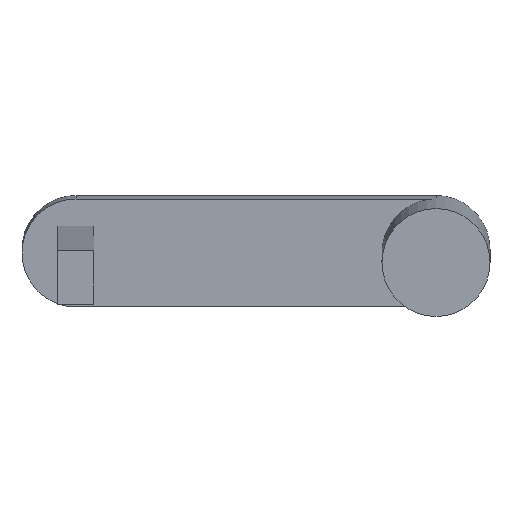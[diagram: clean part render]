
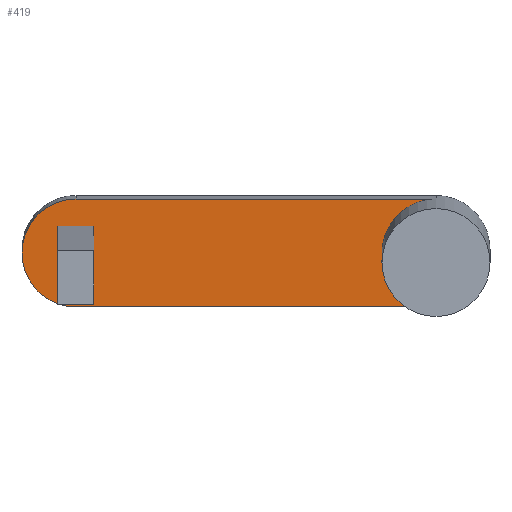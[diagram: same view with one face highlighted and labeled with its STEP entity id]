
A CAD part, top view. The second image highlights one B-rep face of the part: STEP entity #419.
In plain terms, the highlighted planar face has unit normal (0, -0.035, 0.999) as drawn and (0, 0, 1) by its records, which use the part's own axes.
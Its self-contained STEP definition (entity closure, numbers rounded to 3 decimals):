
#261 = VERTEX_POINT('',#262);
#262 = CARTESIAN_POINT('',(0.,15.003,30.));
#268 = EDGE_CURVE('',#261,#269,#271,.T.);
#269 = VERTEX_POINT('',#270);
#270 = CARTESIAN_POINT('',(-0.001,-14.997,30.));
#271 = CIRCLE('',#272,15.);
#272 = AXIS2_PLACEMENT_3D('',#273,#274,#275);
#273 = CARTESIAN_POINT('',(-0.001,0.003,30.));
#274 = DIRECTION('',(0.,0.,1.));
#275 = DIRECTION('',(1.,0.,0.));
#301 = EDGE_CURVE('',#261,#302,#304,.T.);
#302 = VERTEX_POINT('',#303);
#303 = CARTESIAN_POINT('',(100.,15.,30.));
#304 = LINE('',#305,#306);
#305 = CARTESIAN_POINT('',(0.,15.003,30.));
#306 = VECTOR('',#307,1.);
#307 = DIRECTION('',(1.,0.,0.));
#332 = EDGE_CURVE('',#269,#333,#335,.T.);
#333 = VERTEX_POINT('',#334);
#334 = CARTESIAN_POINT('',(99.999,-15.,30.));
#335 = LINE('',#336,#337);
#336 = CARTESIAN_POINT('',(-0.001,-14.997,30.));
#337 = VECTOR('',#338,1.);
#338 = DIRECTION('',(1.,0.,0.));
#419 = ADVANCED_FACE('',(#420,#432),#466,.T.);
#420 = FACE_BOUND('',#421,.T.);
#421 = EDGE_LOOP('',(#422,#423,#424,#425));
#422 = ORIENTED_EDGE('',*,*,#301,.F.);
#423 = ORIENTED_EDGE('',*,*,#268,.T.);
#424 = ORIENTED_EDGE('',*,*,#332,.T.);
#425 = ORIENTED_EDGE('',*,*,#426,.F.);
#426 = EDGE_CURVE('',#302,#333,#427,.T.);
#427 = CIRCLE('',#428,15.);
#428 = AXIS2_PLACEMENT_3D('',#429,#430,#431);
#429 = CARTESIAN_POINT('',(99.999,0.,30.));
#430 = DIRECTION('',(0.,0.,1.));
#431 = DIRECTION('',(1.,0.,-0.));
#432 = FACE_BOUND('',#433,.T.);
#433 = EDGE_LOOP('',(#434,#444,#452,#460));
#434 = ORIENTED_EDGE('',*,*,#435,.F.);
#435 = EDGE_CURVE('',#436,#438,#440,.T.);
#436 = VERTEX_POINT('',#437);
#437 = CARTESIAN_POINT('',(-5.001,7.503,30.));
#438 = VERTEX_POINT('',#439);
#439 = CARTESIAN_POINT('',(-5.001,-7.497,30.));
#440 = LINE('',#441,#442);
#441 = CARTESIAN_POINT('',(-5.001,7.503,30.));
#442 = VECTOR('',#443,1.);
#443 = DIRECTION('',(0.,-1.,0.));
#444 = ORIENTED_EDGE('',*,*,#445,.F.);
#445 = EDGE_CURVE('',#446,#436,#448,.T.);
#446 = VERTEX_POINT('',#447);
#447 = CARTESIAN_POINT('',(4.999,7.503,30.));
#448 = LINE('',#449,#450);
#449 = CARTESIAN_POINT('',(4.999,7.503,30.));
#450 = VECTOR('',#451,1.);
#451 = DIRECTION('',(-1.,0.,0.));
#452 = ORIENTED_EDGE('',*,*,#453,.F.);
#453 = EDGE_CURVE('',#454,#446,#456,.T.);
#454 = VERTEX_POINT('',#455);
#455 = CARTESIAN_POINT('',(4.999,-7.497,30.));
#456 = LINE('',#457,#458);
#457 = CARTESIAN_POINT('',(4.999,-7.497,30.));
#458 = VECTOR('',#459,1.);
#459 = DIRECTION('',(0.,1.,0.));
#460 = ORIENTED_EDGE('',*,*,#461,.F.);
#461 = EDGE_CURVE('',#438,#454,#462,.T.);
#462 = LINE('',#463,#464);
#463 = CARTESIAN_POINT('',(-5.001,-7.497,30.));
#464 = VECTOR('',#465,1.);
#465 = DIRECTION('',(1.,0.,0.));
#466 = PLANE('',#467);
#467 = AXIS2_PLACEMENT_3D('',#468,#469,#470);
#468 = CARTESIAN_POINT('',(42.646,0.001,30.));
#469 = DIRECTION('',(0.,0.,1.));
#470 = DIRECTION('',(1.,0.,0.));
